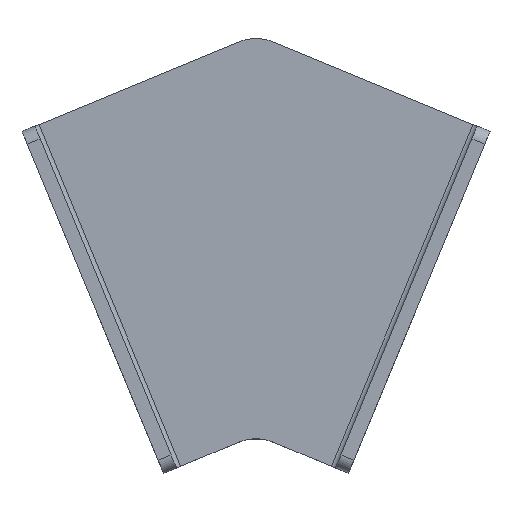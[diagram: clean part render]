
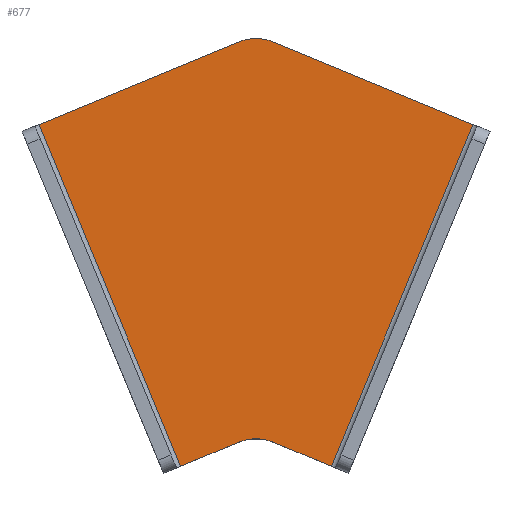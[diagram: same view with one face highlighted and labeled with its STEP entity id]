
A CAD part, top view. The second image highlights one B-rep face of the part: STEP entity #677.
In plain terms, the highlighted planar face has unit normal (0, 0, 1).
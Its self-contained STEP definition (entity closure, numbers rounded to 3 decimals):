
#21 = AXIS2_PLACEMENT_3D ( 'NONE', #453, #130, #678 ) ;
#24 = VECTOR ( 'NONE', #1131, 1000. ) ;
#26 = DIRECTION ( 'NONE',  ( 0., 0., -1. ) ) ;
#60 = CARTESIAN_POINT ( 'NONE',  ( 20., 84.052, 3. ) ) ;
#93 = ORIENTED_EDGE ( 'NONE', *, *, #1284, .T. ) ;
#122 = EDGE_CURVE ( 'NONE', #339, #432, #474, .T. ) ;
#130 = DIRECTION ( 'NONE',  ( 0., 0., 1. ) ) ;
#134 = AXIS2_PLACEMENT_3D ( 'NONE', #696, #26, #805 ) ;
#139 = EDGE_CURVE ( 'NONE', #1282, #1352, #1037, .T. ) ;
#175 = EDGE_CURVE ( 'NONE', #432, #1282, #443, .T. ) ;
#176 = DIRECTION ( 'NONE',  ( 1., 0., 0. ) ) ;
#179 = FACE_OUTER_BOUND ( 'NONE', #439, .T. ) ;
#199 = VERTEX_POINT ( 'NONE', #1206 ) ;
#212 = LINE ( 'NONE', #1150, #729 ) ;
#224 = ORIENTED_EDGE ( 'NONE', *, *, #139, .T. ) ;
#263 = CARTESIAN_POINT ( 'NONE',  ( 36.304, 1.531, 3. ) ) ;
#273 = EDGE_CURVE ( 'NONE', #408, #339, #1135, .T. ) ;
#286 = CARTESIAN_POINT ( 'NONE',  ( 66.919, 75.441, 3. ) ) ;
#300 = CARTESIAN_POINT ( 'NONE',  ( 23.827, 93.291, 3. ) ) ;
#339 = VERTEX_POINT ( 'NONE', #286 ) ;
#351 = CARTESIAN_POINT ( 'NONE',  ( 0., 0., 3. ) ) ;
#359 = CARTESIAN_POINT ( 'NONE',  ( 16.173, 93.291, 3. ) ) ;
#386 = VERTEX_POINT ( 'NONE', #621 ) ;
#396 = ORIENTED_EDGE ( 'NONE', *, *, #794, .T. ) ;
#408 = VERTEX_POINT ( 'NONE', #263 ) ;
#417 = DIRECTION ( 'NONE',  ( 0.924, -0.383, 0. ) ) ;
#432 = VERTEX_POINT ( 'NONE', #300 ) ;
#436 = ORIENTED_EDGE ( 'NONE', *, *, #543, .T. ) ;
#438 = EDGE_CURVE ( 'NONE', #386, #408, #1258, .T. ) ;
#439 = EDGE_LOOP ( 'NONE', ( #224, #93, #396, #436, #796, #891, #698, #1104 ) ) ;
#443 = CIRCLE ( 'NONE', #704, 10. ) ;
#453 = CARTESIAN_POINT ( 'NONE',  ( 0., 0., 3. ) ) ;
#474 = LINE ( 'NONE', #997, #1339 ) ;
#525 = CARTESIAN_POINT ( 'NONE',  ( -30.615, 73.91, 3. ) ) ;
#529 = DIRECTION ( 'NONE',  ( 0.383, 0.924, 0. ) ) ;
#543 = EDGE_CURVE ( 'NONE', #199, #386, #1345, .T. ) ;
#616 = VECTOR ( 'NONE', #417, 1000. ) ;
#621 = CARTESIAN_POINT ( 'NONE',  ( 23.827, 6.699, 3. ) ) ;
#677 = ADVANCED_FACE ( 'NONE', ( #179 ), #1354, .T. ) ;
#678 = DIRECTION ( 'NONE',  ( 1., 0., 0. ) ) ;
#696 = CARTESIAN_POINT ( 'NONE',  ( 20., -2.54, 3. ) ) ;
#698 = ORIENTED_EDGE ( 'NONE', *, *, #122, .T. ) ;
#704 = AXIS2_PLACEMENT_3D ( 'NONE', #60, #827, #176 ) ;
#706 = VECTOR ( 'NONE', #1085, 1000. ) ;
#729 = VECTOR ( 'NONE', #820, 1000. ) ;
#794 = EDGE_CURVE ( 'NONE', #1242, #199, #885, .T. ) ;
#796 = ORIENTED_EDGE ( 'NONE', *, *, #438, .T. ) ;
#805 = DIRECTION ( 'NONE',  ( 1., 0., 0. ) ) ;
#820 = DIRECTION ( 'NONE',  ( 0.383, -0.924, 0. ) ) ;
#827 = DIRECTION ( 'NONE',  ( 0., 0., 1. ) ) ;
#880 = VECTOR ( 'NONE', #529, 1000. ) ;
#885 = LINE ( 'NONE', #351, #24 ) ;
#891 = ORIENTED_EDGE ( 'NONE', *, *, #273, .T. ) ;
#997 = CARTESIAN_POINT ( 'NONE',  ( 70.615, 73.91, 3. ) ) ;
#1037 = LINE ( 'NONE', #525, #706 ) ;
#1085 = DIRECTION ( 'NONE',  ( -0.924, -0.383, 0. ) ) ;
#1104 = ORIENTED_EDGE ( 'NONE', *, *, #175, .T. ) ;
#1110 = DIRECTION ( 'NONE',  ( -0.924, 0.383, 0. ) ) ;
#1131 = DIRECTION ( 'NONE',  ( 0.924, 0.383, 0. ) ) ;
#1135 = LINE ( 'NONE', #1201, #880 ) ;
#1139 = CARTESIAN_POINT ( 'NONE',  ( -26.919, 75.441, 3. ) ) ;
#1150 = CARTESIAN_POINT ( 'NONE',  ( 3.696, 1.531, 3. ) ) ;
#1195 = CARTESIAN_POINT ( 'NONE',  ( 40., 0., 3. ) ) ;
#1201 = CARTESIAN_POINT ( 'NONE',  ( 30.447, -12.611, 3. ) ) ;
#1206 = CARTESIAN_POINT ( 'NONE',  ( 16.173, 6.699, 3. ) ) ;
#1242 = VERTEX_POINT ( 'NONE', #1368 ) ;
#1258 = LINE ( 'NONE', #1195, #616 ) ;
#1282 = VERTEX_POINT ( 'NONE', #359 ) ;
#1284 = EDGE_CURVE ( 'NONE', #1352, #1242, #212, .T. ) ;
#1339 = VECTOR ( 'NONE', #1110, 1000. ) ;
#1345 = CIRCLE ( 'NONE', #134, 10. ) ;
#1352 = VERTEX_POINT ( 'NONE', #1139 ) ;
#1354 = PLANE ( 'NONE',  #21 ) ;
#1368 = CARTESIAN_POINT ( 'NONE',  ( 3.696, 1.531, 3. ) ) ;
